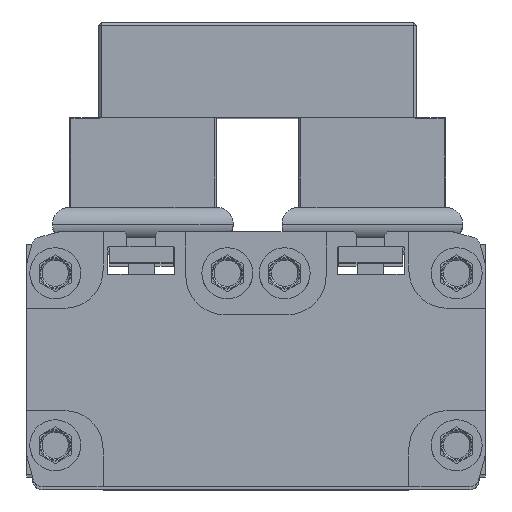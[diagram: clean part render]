
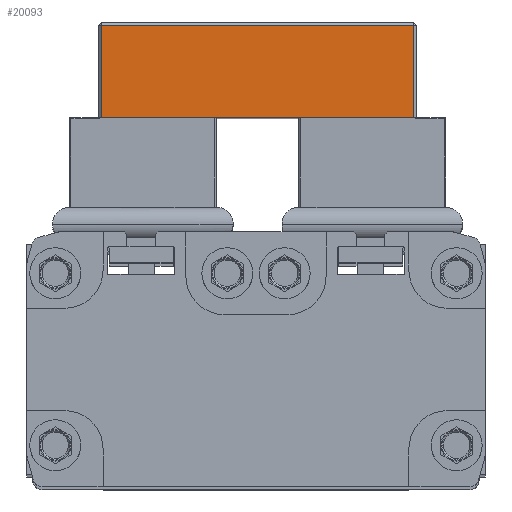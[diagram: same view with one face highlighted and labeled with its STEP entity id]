
A CAD part, top view. The second image highlights one B-rep face of the part: STEP entity #20093.
In plain terms, the highlighted planar face has unit normal (0, 0, 1).
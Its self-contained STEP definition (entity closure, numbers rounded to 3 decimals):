
#19975 = VERTEX_POINT ( 'NONE', #39846 ) ;
#19977 = EDGE_CURVE ( 'NONE', #19978, #19975, #39845, .T. ) ;
#19978 = VERTEX_POINT ( 'NONE', #39841 ) ;
#20071 = ORIENTED_EDGE ( 'NONE', *, *, #19977, .T. ) ;
#20072 = ORIENTED_EDGE ( 'NONE', *, *, #20073, .T. ) ;
#20073 = EDGE_CURVE ( 'NONE', #19975, #20097, #40017, .T. ) ;
#20093 = ADVANCED_FACE ( 'NONE', ( #40038 ), #40099, .T. ) ;
#20094 = EDGE_LOOP ( 'NONE', ( #20095, #20099, #20071, #20072 ) ) ;
#20095 = ORIENTED_EDGE ( 'NONE', *, *, #20096, .T. ) ;
#20096 = EDGE_CURVE ( 'NONE', #20097, #20098, #40094, .T. ) ;
#20097 = VERTEX_POINT ( 'NONE', #40090 ) ;
#20098 = VERTEX_POINT ( 'NONE', #40089 ) ;
#20099 = ORIENTED_EDGE ( 'NONE', *, *, #20100, .T. ) ;
#20100 = EDGE_CURVE ( 'NONE', #20098, #19978, #40088, .T. ) ;
#39841 = CARTESIAN_POINT ( 'NONE',  ( -24.5, -7.5, 120. ) ) ;
#39842 = DIRECTION ( 'NONE',  ( 1., 0., 0. ) ) ;
#39843 = VECTOR ( 'NONE', #39842, 1000. ) ;
#39844 = CARTESIAN_POINT ( 'NONE',  ( -25., -7.5, 120. ) ) ;
#39845 = LINE ( 'NONE', #39844, #39843 ) ;
#39846 = CARTESIAN_POINT ( 'NONE',  ( 24.5, -7.5, 120. ) ) ;
#40014 = DIRECTION ( 'NONE',  ( 0., 1., 0. ) ) ;
#40015 = VECTOR ( 'NONE', #40014, 1000. ) ;
#40016 = CARTESIAN_POINT ( 'NONE',  ( 24.5, 7.5, 120. ) ) ;
#40017 = LINE ( 'NONE', #40016, #40015 ) ;
#40038 = FACE_OUTER_BOUND ( 'NONE', #20094, .T. ) ;
#40085 = DIRECTION ( 'NONE',  ( 0., -1., 0. ) ) ;
#40086 = VECTOR ( 'NONE', #40085, 1000. ) ;
#40087 = CARTESIAN_POINT ( 'NONE',  ( -24.5, -7.5, 120. ) ) ;
#40088 = LINE ( 'NONE', #40087, #40086 ) ;
#40089 = CARTESIAN_POINT ( 'NONE',  ( -24.5, 7., 120. ) ) ;
#40090 = CARTESIAN_POINT ( 'NONE',  ( 24.5, 7., 120. ) ) ;
#40091 = DIRECTION ( 'NONE',  ( -1., 0., 0. ) ) ;
#40092 = VECTOR ( 'NONE', #40091, 1000. ) ;
#40093 = CARTESIAN_POINT ( 'NONE',  ( -25., 7., 120. ) ) ;
#40094 = LINE ( 'NONE', #40093, #40092 ) ;
#40095 = DIRECTION ( 'NONE',  ( 1., 0., 0. ) ) ;
#40096 = DIRECTION ( 'NONE',  ( 0., 0., 1. ) ) ;
#40097 = CARTESIAN_POINT ( 'NONE',  ( -25., -7.5, 120. ) ) ;
#40098 = AXIS2_PLACEMENT_3D ( 'NONE', #40097, #40096, #40095 ) ;
#40099 = PLANE ( 'NONE',  #40098 ) ;
